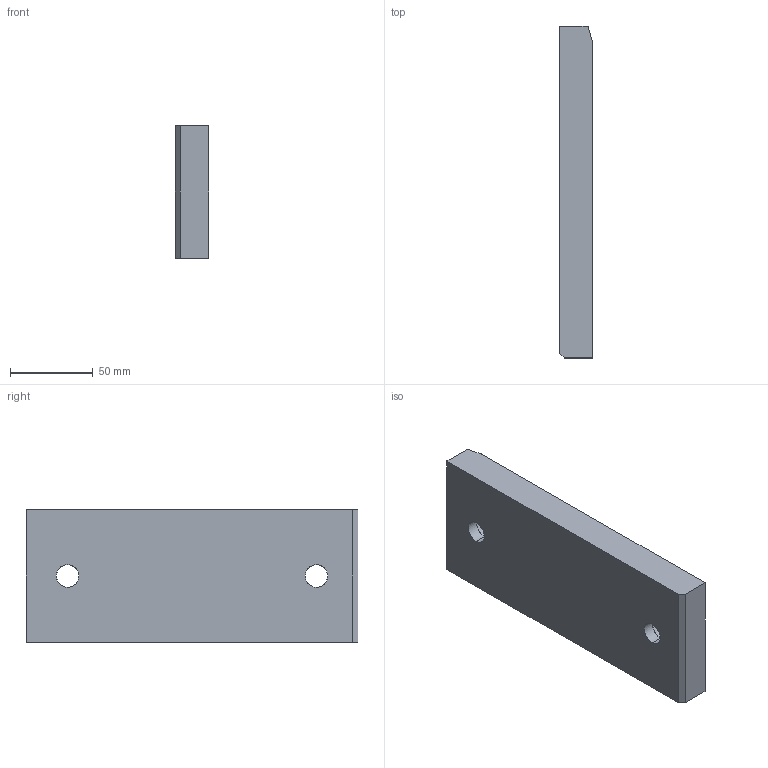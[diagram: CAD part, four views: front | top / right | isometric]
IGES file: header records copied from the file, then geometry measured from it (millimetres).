
Start section: START RECORD GO HERE.
Global section: file name: A915-80X200.igs; native system: DASSAULT SYSTEMES CATIA V5 R20 - www.3ds.com; preprocessor: CATIA Version 5 Release 20 ; author: Utente; organization: NB04-ASUS; date: 20200407.211614; units: millimetre
Bounding box: 20 x 200 x 80 mm (x, y, z)
Surface area: 44337.9 mm2 (no closed solid volume)
Topology: 0 solids, 0 shells, 23 faces, 106 edges, 106 vertices
Faces by surface type: revolution 13, extrusion 10
